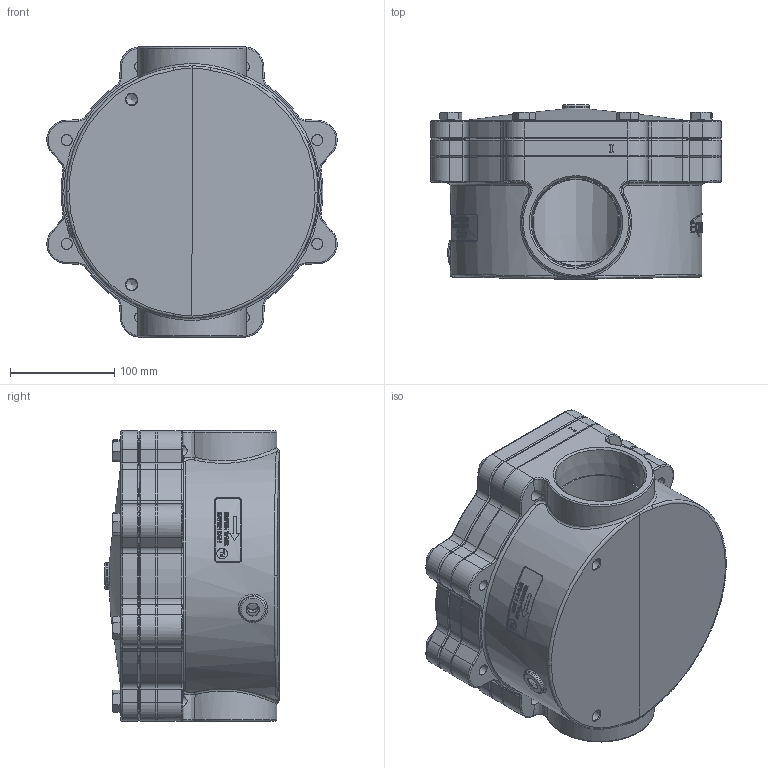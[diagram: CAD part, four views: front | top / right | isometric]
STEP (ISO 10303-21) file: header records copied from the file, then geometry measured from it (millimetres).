
FILE_DESCRIPTION(/* description */ (''),/* implementation_level */ '2;1');
FILE_NAME(/* name */ 'IC24SNH0 External Assembly.stp',/* time_stamp */ '2025-12-05T09:54:53-05:00',/* author */ ('mkowall'),/* organization */ (''),/* preprocessor_version */ 'ST-DEVELOPER v19.2',/* originating_system */ 'Autodesk Inventor 2023',/* authorisation */ '');
FILE_SCHEMA (('AUTOMOTIVE_DESIGN { 1 0 10303 214 3 1 1 }'));
Products named in the file (2): IC24SNH0 External Assembly; IC24SNH0 External Assembly_Simplify_1
Assembly tree (1 placements, depth 2):
  IC24SNH0 External Assembly
    IC24SNH0 External Assembly_Simplify_1
Bounding box: 278.64 x 167.56 x 278.64 mm (x, y, z)
Volume: 4317415.5 mm3; surface area: 674036.7 mm2
Topology: 11 solids, 11 shells, 2068 faces, 5444 edges, 3513 vertices
Faces by surface type: plane 933, bspline 586, cylinder 266, torus 191, cone 87, sphere 5
Full cylindrical faces by diameter (mm): 8.382 x4, 10.716 x10, 10.719 x1, 11.125 x1, 12.7 x8, 13.106 x16, 17.145 x8, 25.4 x2, 82.55 x2, 101.752 x1, 111.328 x1, 212.827 x1, 222.326 x1, 225.501 x2, 235.026 x2
Entity records: 95578 total; most frequent: CARTESIAN_POINT 46355, ORIENTED_EDGE 10864, DIRECTION 9327, EDGE_CURVE 5432, VERTEX_POINT 3513, AXIS2_PLACEMENT_3D 3213, LINE 2901, VECTOR 2901
